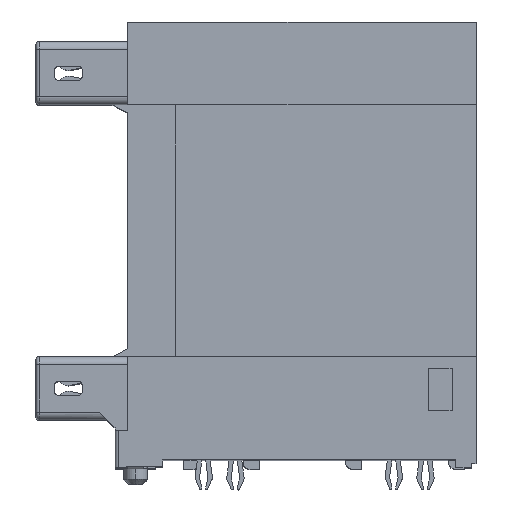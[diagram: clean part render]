
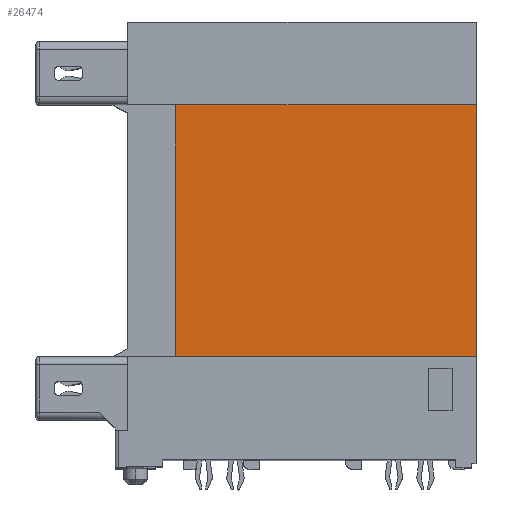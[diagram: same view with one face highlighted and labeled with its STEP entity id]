
A CAD part, top view. The second image highlights one B-rep face of the part: STEP entity #26474.
In plain terms, the highlighted planar face has unit normal (0, 0, 1).
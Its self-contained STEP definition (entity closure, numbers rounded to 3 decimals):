
#3178=DIRECTION('',(1.,0.,0.));
#3179=VECTOR('',#3178,18.99);
#3180=CARTESIAN_POINT('',(3.91,6.72,9.935));
#3181=LINE('',#3180,#3179);
#4102=DIRECTION('',(0.,-1.,0.));
#4103=VECTOR('',#4102,15.9);
#4104=CARTESIAN_POINT('',(22.9,22.62,9.935));
#4105=LINE('',#4104,#4103);
#5008=DIRECTION('',(0.,-1.,0.));
#5009=VECTOR('',#5008,15.9);
#5010=CARTESIAN_POINT('',(3.91,22.62,9.935));
#5011=LINE('',#5010,#5009);
#5012=DIRECTION('',(1.,0.,0.));
#5013=VECTOR('',#5012,18.99);
#5014=CARTESIAN_POINT('',(3.91,22.62,9.935));
#5015=LINE('',#5014,#5013);
#16688=CARTESIAN_POINT('',(22.9,22.62,9.935));
#16689=VERTEX_POINT('',#16688);
#16690=CARTESIAN_POINT('',(22.9,6.72,9.935));
#16691=VERTEX_POINT('',#16690);
#16720=CARTESIAN_POINT('',(3.91,22.62,9.935));
#16721=CARTESIAN_POINT('',(3.91,6.72,9.935));
#16722=VERTEX_POINT('',#16720);
#16723=VERTEX_POINT('',#16721);
#26462=CARTESIAN_POINT('',(0.91,22.62,9.935));
#26463=DIRECTION('',(0.,0.,-1.));
#26464=DIRECTION('',(0.,-1.,0.));
#26465=AXIS2_PLACEMENT_3D('',#26462,#26463,#26464);
#26466=PLANE('',#26465);
#26468=ORIENTED_EDGE('',*,*,#26467,.F.);
#26469=ORIENTED_EDGE('',*,*,#26440,.T.);
#26470=ORIENTED_EDGE('',*,*,#25378,.T.);
#26471=ORIENTED_EDGE('',*,*,#24646,.F.);
#26472=EDGE_LOOP('',(#26468,#26469,#26470,#26471));
#26473=FACE_OUTER_BOUND('',#26472,.F.);
#26474=ADVANCED_FACE('',(#26473),#26466,.F.);
#24646=EDGE_CURVE('',#16723,#16691,#3181,.T.);
#25378=EDGE_CURVE('',#16689,#16691,#4105,.T.);
#26440=EDGE_CURVE('',#16722,#16689,#5015,.T.);
#26467=EDGE_CURVE('',#16722,#16723,#5011,.T.);
